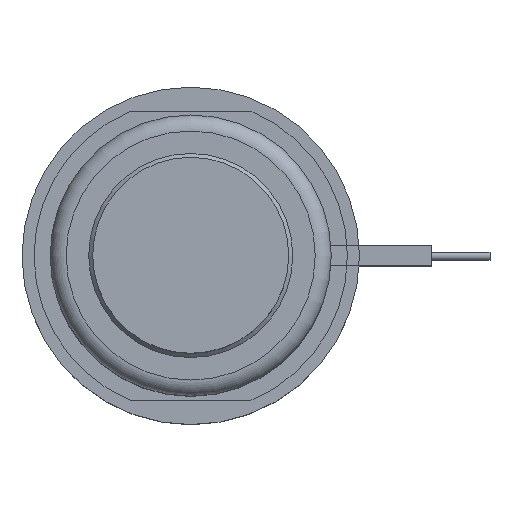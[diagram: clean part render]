
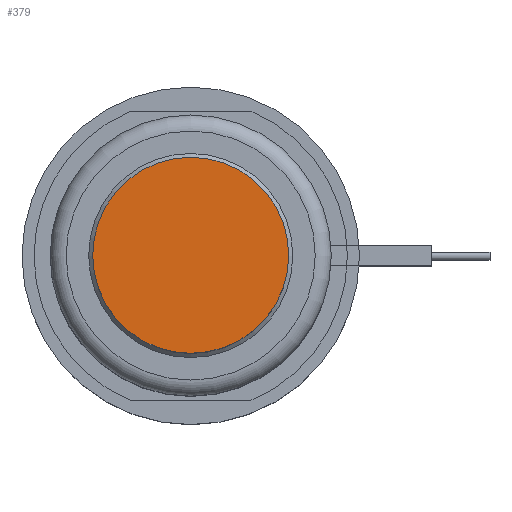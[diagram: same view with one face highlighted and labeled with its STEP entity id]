
A CAD part, top view. The second image highlights one B-rep face of the part: STEP entity #379.
In plain terms, the highlighted planar face has unit normal (0, 0, 1).
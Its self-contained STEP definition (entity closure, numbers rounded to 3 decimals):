
#241=PLANE('',#1403);
#290=FACE_OUTER_BOUND('',#617,.T.);
#379=ADVANCED_FACE('',(#290),#241,.F.);
#617=EDGE_LOOP('',(#775));
#775=ORIENTED_EDGE('',*,*,#1157,.F.);
#1042=VERTEX_POINT('',#2042);
#1157=EDGE_CURVE('',#1042,#1042,#1299,.T.);
#1299=CIRCLE('',#1402,12.2);
#1402=AXIS2_PLACEMENT_3D('',#2041,#1624,#1625);
#1403=AXIS2_PLACEMENT_3D('',#2043,#1626,#1627);
#1624=DIRECTION('',(0.,0.,-1.));
#1625=DIRECTION('',(-1.,0.,0.));
#1626=DIRECTION('',(0.,0.,-1.));
#1627=DIRECTION('',(-1.,0.,0.));
#2041=CARTESIAN_POINT('',(0.,0.,18.));
#2042=CARTESIAN_POINT('',(-12.2,0.,18.));
#2043=CARTESIAN_POINT('',(0.,0.,18.));
